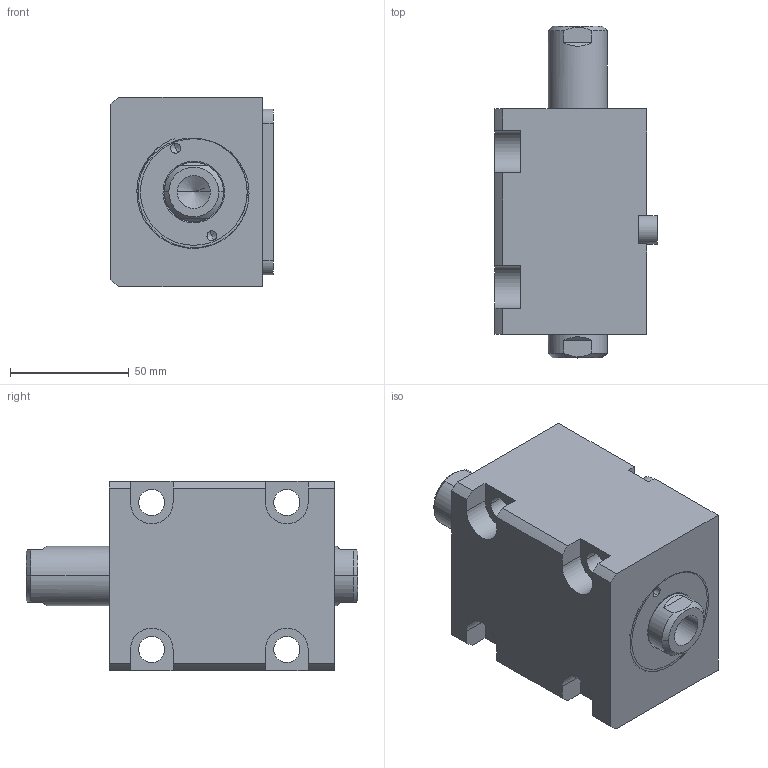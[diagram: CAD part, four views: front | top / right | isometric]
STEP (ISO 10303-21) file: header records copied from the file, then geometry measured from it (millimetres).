
FILE_DESCRIPTION (( 'STEP AP214' ), '1' );
FILE_NAME ('chtb-lwm40x25n_asm.STEP', '2018-05-30T07:59:44', ( 'Windows' ), ( 'Microsoft' ), 'SwSTEP 2.0', 'SolidWorks 2015', '' );
FILE_SCHEMA (( 'AUTOMOTIVE_DESIGN' ));
Length unit declared in the file: millimetre
Products named in the file (5): CHTB-LA40PJ; chtb-lwm40x25n_asm; CHTB-SW40X25NHSG; CHTB-SD40QG; CHTB-LWM40X25NBT
Assembly tree (4 placements, depth 2):
  chtb-lwm40x25n_asm
    CHTB-LA40PJ
    CHTB-LWM40X25NBT
    CHTB-SD40QG
    CHTB-SW40X25NHSG
Bounding box: 68.5 x 140 x 80 mm (x, y, z)
Volume: 448354.1 mm3; surface area: 85847.4 mm2
Topology: 4 solids, 4 shells, 166 faces, 450 edges, 296 vertices
Faces by surface type: cylinder 77, plane 50, bspline 14, cone 13, torus 12
Entity records: 10488 total; most frequent: CARTESIAN_POINT 6156, ORIENTED_EDGE 880, DIRECTION 821, EDGE_CURVE 440, AXIS2_PLACEMENT_3D 326, VERTEX_POINT 296, EDGE_LOOP 196, VECTOR 169
